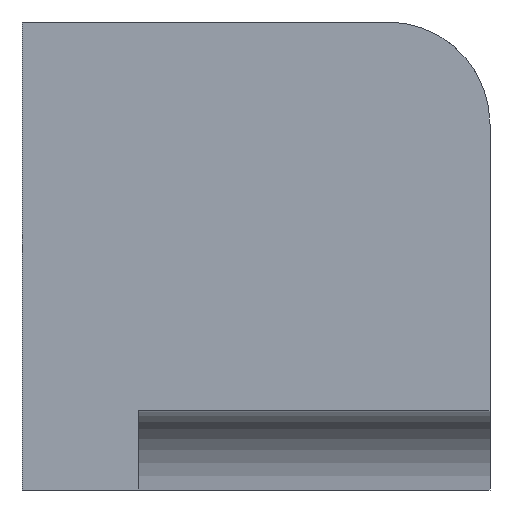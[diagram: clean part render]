
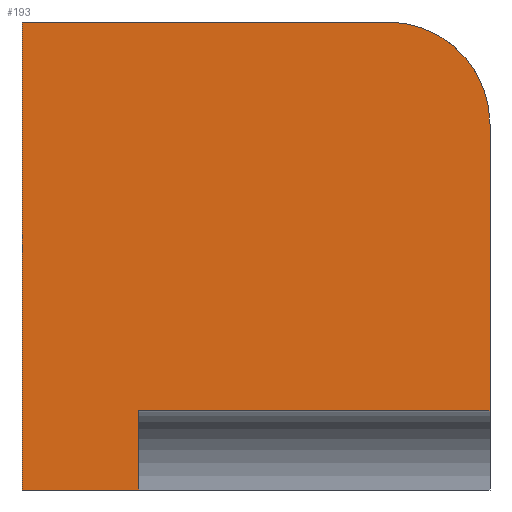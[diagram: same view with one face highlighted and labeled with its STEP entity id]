
A CAD part, left-side view. The second image highlights one B-rep face of the part: STEP entity #193.
In plain terms, the highlighted planar face has unit normal (-1, 0, 0).
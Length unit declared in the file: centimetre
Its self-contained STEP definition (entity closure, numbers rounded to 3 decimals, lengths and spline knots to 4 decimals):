
#13 = LINE ( 'NONE', #205, #71 ) ;
#17 = LINE ( 'NONE', #502, #824 ) ;
#23 = EDGE_CURVE ( 'NONE', #289, #835, #782, .T. ) ;
#39 = VERTEX_POINT ( 'NONE', #411 ) ;
#59 = VECTOR ( 'NONE', #708, 100. ) ;
#61 = CIRCLE ( 'NONE', #184, 218.5029 ) ;
#63 = EDGE_CURVE ( 'NONE', #501, #777, #559, .T. ) ;
#71 = VECTOR ( 'NONE', #545, 100. ) ;
#77 = EDGE_CURVE ( 'NONE', #501, #835, #61, .T. ) ;
#81 = CARTESIAN_POINT ( 'NONE',  ( 0., 1000., 0. ) ) ;
#82 = EDGE_LOOP ( 'NONE', ( #89, #440, #641, #455, #340, #596, #456 ) ) ;
#89 = ORIENTED_EDGE ( 'NONE', *, *, #180, .F. ) ;
#118 = VERTEX_POINT ( 'NONE', #81 ) ;
#132 = LINE ( 'NONE', #661, #506 ) ;
#136 = CARTESIAN_POINT ( 'NONE',  ( 0., 1000., 1000. ) ) ;
#152 = EDGE_CURVE ( 'NONE', #118, #39, #13, .T. ) ;
#180 = EDGE_CURVE ( 'NONE', #729, #39, #476, .T. ) ;
#184 = AXIS2_PLACEMENT_3D ( 'NONE', #296, #822, #760 ) ;
#193 = ADVANCED_FACE ( 'NONE', ( #408 ), #741, .F. ) ;
#205 = CARTESIAN_POINT ( 'NONE',  ( 0., 1000., 0. ) ) ;
#289 = VERTEX_POINT ( 'NONE', #452 ) ;
#296 = CARTESIAN_POINT ( 'NONE',  ( 0., 218.5029, 781.4971 ) ) ;
#340 = ORIENTED_EDGE ( 'NONE', *, *, #23, .F. ) ;
#354 = AXIS2_PLACEMENT_3D ( 'NONE', #136, #437, #443 ) ;
#381 = VECTOR ( 'NONE', #733, 100. ) ;
#405 = DIRECTION ( 'NONE',  ( 0., -1., 0. ) ) ;
#408 = FACE_OUTER_BOUND ( 'NONE', #82, .T. ) ;
#411 = CARTESIAN_POINT ( 'NONE',  ( 0., 750.6143, 0. ) ) ;
#414 = CARTESIAN_POINT ( 'NONE',  ( 0., 0., 781.4971 ) ) ;
#431 = EDGE_CURVE ( 'NONE', #729, #777, #132, .T. ) ;
#437 = DIRECTION ( 'NONE',  ( 1., 0., 0. ) ) ;
#440 = ORIENTED_EDGE ( 'NONE', *, *, #431, .T. ) ;
#443 = DIRECTION ( 'NONE',  ( 0., 0., -1. ) ) ;
#452 = CARTESIAN_POINT ( 'NONE',  ( 0., 1000., 1000. ) ) ;
#455 = ORIENTED_EDGE ( 'NONE', *, *, #77, .T. ) ;
#456 = ORIENTED_EDGE ( 'NONE', *, *, #152, .T. ) ;
#476 = LINE ( 'NONE', #829, #381 ) ;
#497 = DIRECTION ( 'NONE',  ( 0., 0., -1. ) ) ;
#501 = VERTEX_POINT ( 'NONE', #414 ) ;
#502 = CARTESIAN_POINT ( 'NONE',  ( 0., 1000., 1000. ) ) ;
#506 = VECTOR ( 'NONE', #405, 100. ) ;
#545 = DIRECTION ( 'NONE',  ( 0., -1., 0. ) ) ;
#559 = LINE ( 'NONE', #675, #678 ) ;
#579 = DIRECTION ( 'NONE',  ( 0., 0., -1. ) ) ;
#596 = ORIENTED_EDGE ( 'NONE', *, *, #751, .T. ) ;
#641 = ORIENTED_EDGE ( 'NONE', *, *, #63, .F. ) ;
#643 = CARTESIAN_POINT ( 'NONE',  ( 0., 750.6143, 168.8415 ) ) ;
#647 = CARTESIAN_POINT ( 'NONE',  ( 0., 0., 168.8415 ) ) ;
#659 = CARTESIAN_POINT ( 'NONE',  ( 0., 1000., 1000. ) ) ;
#661 = CARTESIAN_POINT ( 'NONE',  ( 0., 750.6143, 168.8415 ) ) ;
#675 = CARTESIAN_POINT ( 'NONE',  ( 0., 0., 1000. ) ) ;
#678 = VECTOR ( 'NONE', #497, 100. ) ;
#708 = DIRECTION ( 'NONE',  ( 0., -1., 0. ) ) ;
#712 = CARTESIAN_POINT ( 'NONE',  ( 0., 218.5029, 1000. ) ) ;
#729 = VERTEX_POINT ( 'NONE', #643 ) ;
#733 = DIRECTION ( 'NONE',  ( 0., 0., -1. ) ) ;
#741 = PLANE ( 'NONE',  #354 ) ;
#751 = EDGE_CURVE ( 'NONE', #289, #118, #17, .T. ) ;
#760 = DIRECTION ( 'NONE',  ( 0., 0., -1. ) ) ;
#777 = VERTEX_POINT ( 'NONE', #647 ) ;
#782 = LINE ( 'NONE', #659, #59 ) ;
#822 = DIRECTION ( 'NONE',  ( -1., 0., 0. ) ) ;
#824 = VECTOR ( 'NONE', #579, 100. ) ;
#829 = CARTESIAN_POINT ( 'NONE',  ( 0., 750.6143, 1000. ) ) ;
#835 = VERTEX_POINT ( 'NONE', #712 ) ;
